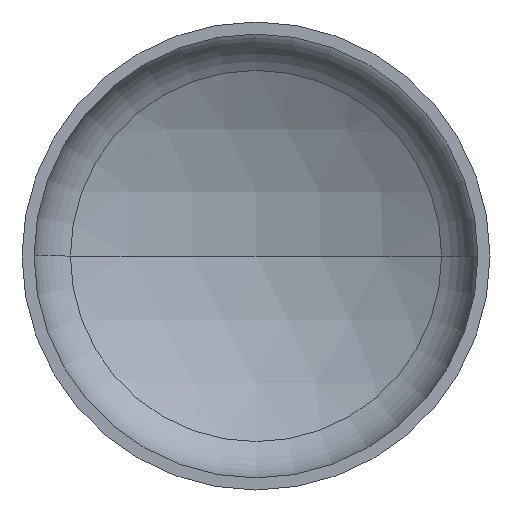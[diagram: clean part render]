
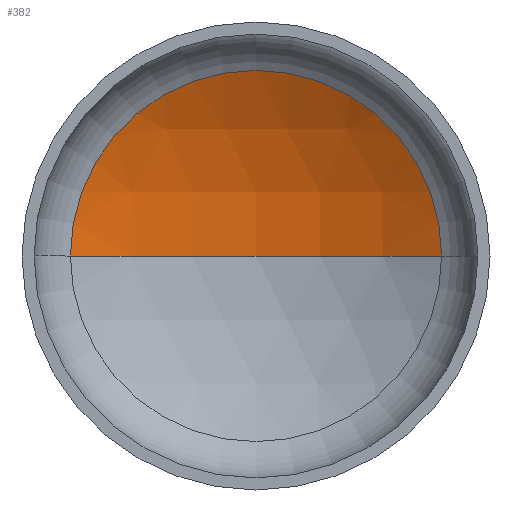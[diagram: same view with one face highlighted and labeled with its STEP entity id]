
A CAD part, front view. The second image highlights one B-rep face of the part: STEP entity #382.
In plain terms, the highlighted spherical face has radius 3040 mm.
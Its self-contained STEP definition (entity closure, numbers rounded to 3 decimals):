
#7 = AXIS2_PLACEMENT_3D ( 'NONE', #182, #410, #138 ) ;
#8 = AXIS2_PLACEMENT_3D ( 'NONE', #374, #136, #271 ) ;
#14 = VERTEX_POINT ( 'NONE', #253 ) ;
#18 = AXIS2_PLACEMENT_3D ( 'NONE', #180, #146, #326 ) ;
#34 = EDGE_LOOP ( 'NONE', ( #153, #147, #94 ) ) ;
#48 = AXIS2_PLACEMENT_3D ( 'NONE', #379, #286, #360 ) ;
#93 = VERTEX_POINT ( 'NONE', #211 ) ;
#94 = ORIENTED_EDGE ( 'NONE', *, *, #353, .T. ) ;
#133 = FACE_OUTER_BOUND ( 'NONE', #34, .T. ) ;
#136 = DIRECTION ( 'NONE',  ( 0., 0., 1. ) ) ;
#138 = DIRECTION ( 'NONE',  ( 1., 0., 0. ) ) ;
#146 = DIRECTION ( 'NONE',  ( 0., 0., -1. ) ) ;
#147 = ORIENTED_EDGE ( 'NONE', *, *, #338, .T. ) ;
#153 = ORIENTED_EDGE ( 'NONE', *, *, #347, .F. ) ;
#165 = VERTEX_POINT ( 'NONE', #201 ) ;
#180 = CARTESIAN_POINT ( 'NONE',  ( 0., -2032.12, 0. ) ) ;
#182 = CARTESIAN_POINT ( 'NONE',  ( 0., 608.061, 0. ) ) ;
#201 = CARTESIAN_POINT ( 'NONE',  ( 0., 1007.88, 0. ) ) ;
#211 = CARTESIAN_POINT ( 'NONE',  ( -1506.998, 608.061, 0. ) ) ;
#234 = CIRCLE ( 'NONE', #7, 1506.998 ) ;
#253 = CARTESIAN_POINT ( 'NONE',  ( 1506.998, 608.061, 0. ) ) ;
#271 = DIRECTION ( 'NONE',  ( 1., 0., 0. ) ) ;
#286 = DIRECTION ( 'NONE',  ( 0., 0., -1. ) ) ;
#287 = CIRCLE ( 'NONE', #8, 3040. ) ;
#326 = DIRECTION ( 'NONE',  ( -1., 0., 0. ) ) ;
#338 = EDGE_CURVE ( 'NONE', #165, #14, #409, .T. ) ;
#347 = EDGE_CURVE ( 'NONE', #165, #93, #287, .T. ) ;
#353 = EDGE_CURVE ( 'NONE', #14, #93, #234, .T. ) ;
#360 = DIRECTION ( 'NONE',  ( -1., 0., 0. ) ) ;
#374 = CARTESIAN_POINT ( 'NONE',  ( 0., -2032.12, 0. ) ) ;
#379 = CARTESIAN_POINT ( 'NONE',  ( 0., -2032.12, 0. ) ) ;
#382 = ADVANCED_FACE ( 'NONE', ( #133 ), #398, .F. ) ;
#398 = SPHERICAL_SURFACE ( 'NONE', #48, 3040. ) ;
#409 = CIRCLE ( 'NONE', #18, 3040. ) ;
#410 = DIRECTION ( 'NONE',  ( 0., -1., 0. ) ) ;
